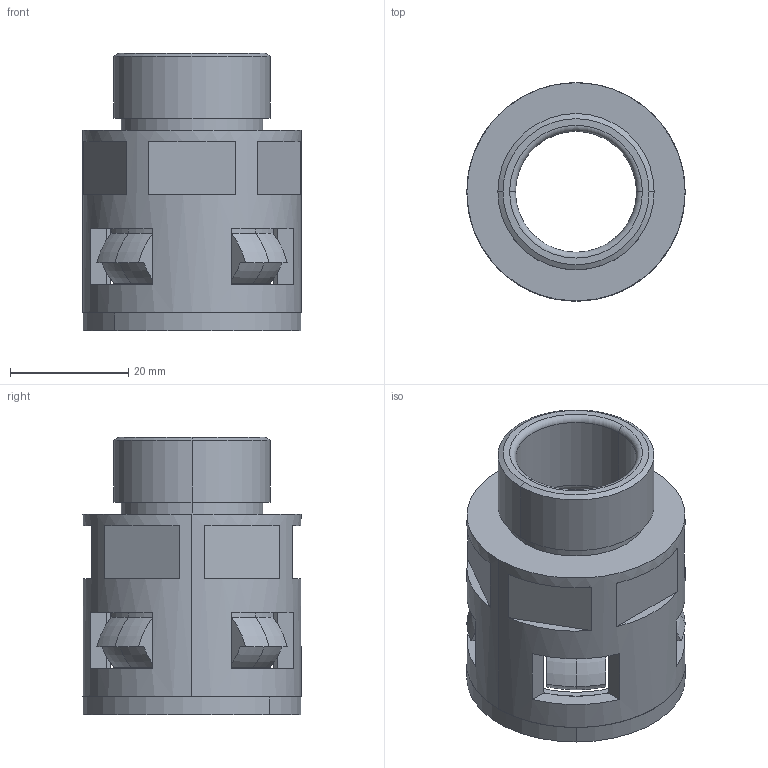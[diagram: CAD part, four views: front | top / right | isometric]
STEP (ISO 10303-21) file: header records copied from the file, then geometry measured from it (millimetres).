
FILE_DESCRIPTION (( 'STEP AP203' ), '1' );
FILE_NAME ('WQG-G3-4-AD28.STEP', '2020-03-11T04:38:13', ( '' ), ( '' ), 'SwSTEP 2.0', 'SolidWorks 2016', '' );
FILE_SCHEMA (( 'CONFIG_CONTROL_DESIGN' ));
Length unit declared in the file: millimetre
Products named in the file (4): WQG-G3-4-AD28; NSK-AD28.5; GFD-AD28.5; WQG-G3-4-AD28.5-01
Assembly tree (3 placements, depth 2):
  WQG-G3-4-AD28
    WQG-G3-4-AD28.5-01
    GFD-AD28.5
    NSK-AD28.5
Bounding box: 37 x 37 x 47 mm (x, y, z)
Volume: 15420.4 mm3; surface area: 17485.8 mm2
Topology: 3 solids, 3 shells, 190 faces, 472 edges, 294 vertices
Faces by surface type: plane 86, cone 40, torus 34, cylinder 30
Entity records: 6246 total; most frequent: CARTESIAN_POINT 1106, DIRECTION 1084, ORIENTED_EDGE 944, EDGE_CURVE 472, AXIS2_PLACEMENT_3D 432, VERTEX_POINT 294, CIRCLE 236, LINE 220
